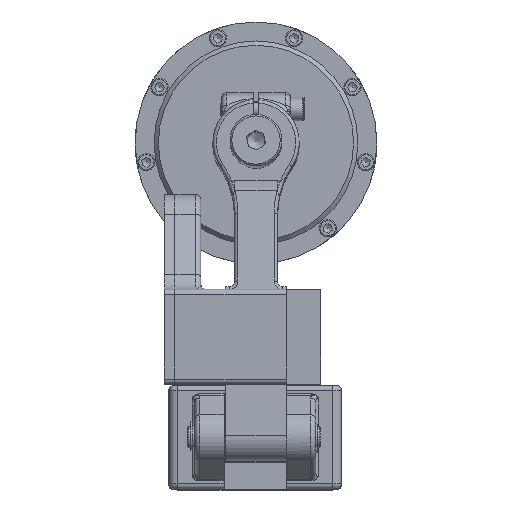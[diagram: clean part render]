
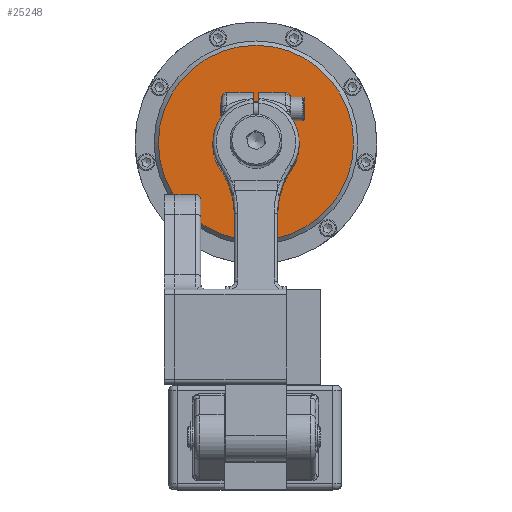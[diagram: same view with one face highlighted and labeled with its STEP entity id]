
A CAD part, top view. The second image highlights one B-rep face of the part: STEP entity #25248.
In plain terms, the highlighted planar face has unit normal (0, 0, 1).
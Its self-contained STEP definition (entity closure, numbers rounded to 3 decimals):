
#4729=FACE_BOUND('',#6813,.T.);
#4730=FACE_BOUND('',#6814,.T.);
#5374=FACE_OUTER_BOUND('',#6812,.T.);
#6812=EDGE_LOOP('',(#18214));
#6813=EDGE_LOOP('',(#18215,#18216));
#6814=EDGE_LOOP('',(#18217,#18218));
#8269=CIRCLE('',#26952,15.);
#8270=CIRCLE('',#26953,15.);
#8277=CIRCLE('',#26962,6.5);
#8278=CIRCLE('',#26963,6.5);
#8284=CIRCLE('',#26972,56.5);
#10094=VERTEX_POINT('',#47974);
#10095=VERTEX_POINT('',#47975);
#10110=VERTEX_POINT('',#48009);
#10111=VERTEX_POINT('',#48010);
#10117=VERTEX_POINT('',#48028);
#13043=EDGE_CURVE('',#10094,#10095,#8269,.T.);
#13044=EDGE_CURVE('',#10095,#10094,#8270,.T.);
#13060=EDGE_CURVE('',#10110,#10111,#8277,.T.);
#13061=EDGE_CURVE('',#10111,#10110,#8278,.T.);
#13070=EDGE_CURVE('',#10117,#10117,#8284,.T.);
#18214=ORIENTED_EDGE('',*,*,#13070,.F.);
#18215=ORIENTED_EDGE('',*,*,#13060,.T.);
#18216=ORIENTED_EDGE('',*,*,#13061,.T.);
#18217=ORIENTED_EDGE('',*,*,#13043,.T.);
#18218=ORIENTED_EDGE('',*,*,#13044,.T.);
#23138=PLANE('',#26973);
#25248=ADVANCED_FACE('',(#5374,#4729,#4730),#23138,.T.);
#26952=AXIS2_PLACEMENT_3D('',#47976,#30568,#30569);
#26953=AXIS2_PLACEMENT_3D('',#47977,#30570,#30571);
#26962=AXIS2_PLACEMENT_3D('',#48011,#30597,#30598);
#26963=AXIS2_PLACEMENT_3D('',#48012,#30599,#30600);
#26972=AXIS2_PLACEMENT_3D('',#48030,#30620,#30621);
#26973=AXIS2_PLACEMENT_3D('',#48031,#30622,#30623);
#30568=DIRECTION('center_axis',(0.,0.,
-1.));
#30569=DIRECTION('ref_axis',(0.,-1.,0.));
#30570=DIRECTION('center_axis',(0.,0.,
-1.));
#30571=DIRECTION('ref_axis',(0.,-1.,0.));
#30597=DIRECTION('center_axis',(0.,0.,
-1.));
#30598=DIRECTION('ref_axis',(-1.,0.,0.));
#30599=DIRECTION('center_axis',(0.,0.,
-1.));
#30600=DIRECTION('ref_axis',(-1.,0.,0.));
#30620=DIRECTION('center_axis',(0.,0.,
-1.));
#30621=DIRECTION('ref_axis',(0.,1.,0.));
#30622=DIRECTION('center_axis',(0.,0.,
1.));
#30623=DIRECTION('ref_axis',(-1.,0.,0.));
#47974=CARTESIAN_POINT('',(47.,125.,-51.1));
#47975=CARTESIAN_POINT('',(47.,155.,-51.1));
#47976=CARTESIAN_POINT('Origin',(47.,140.,-51.1));
#47977=CARTESIAN_POINT('Origin',(47.,140.,-51.1));
#48009=CARTESIAN_POINT('',(40.5,100.,-51.1));
#48010=CARTESIAN_POINT('',(53.5,100.,-51.1));
#48011=CARTESIAN_POINT('Origin',(47.,100.,-51.1));
#48012=CARTESIAN_POINT('Origin',(47.,100.,-51.1));
#48028=CARTESIAN_POINT('',(47.,83.5,-51.1));
#48030=CARTESIAN_POINT('Origin',(47.,140.,-51.1));
#48031=CARTESIAN_POINT('Origin',(47.,103.,-51.1));
